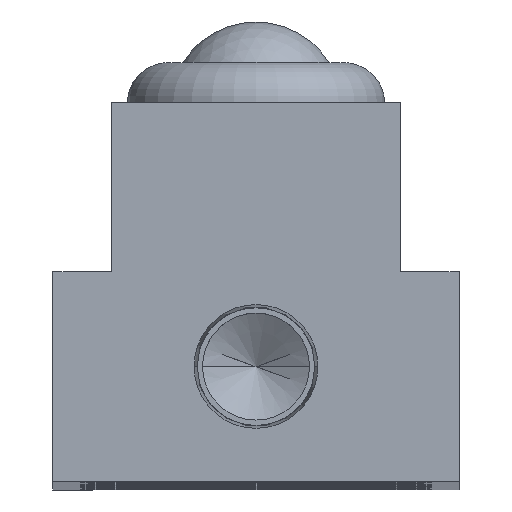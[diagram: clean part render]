
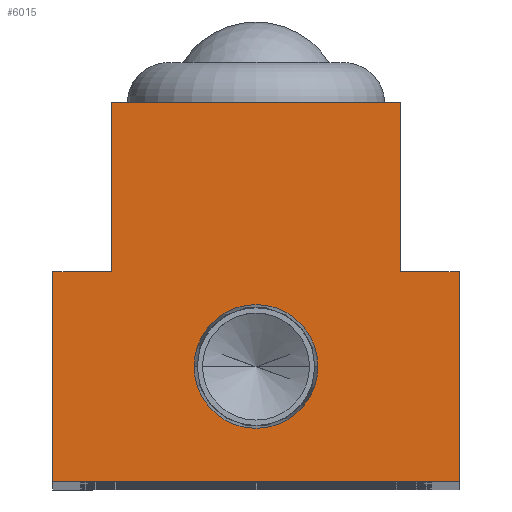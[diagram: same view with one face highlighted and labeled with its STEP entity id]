
A CAD part, top view. The second image highlights one B-rep face of the part: STEP entity #6015.
In plain terms, the highlighted planar face has unit normal (0, 0, 1).
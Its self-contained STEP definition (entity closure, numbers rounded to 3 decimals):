
#200 = DIRECTION ( 'NONE',  ( 0., 1., 0. ) ) ;
#207 = CIRCLE ( 'NONE', #464, 4.574 ) ;
#304 = EDGE_CURVE ( 'NONE', #964, #2742, #207, .T. ) ;
#333 = CARTESIAN_POINT ( 'NONE',  ( 15., 0., 0. ) ) ;
#354 = EDGE_CURVE ( 'NONE', #5958, #7961, #7630, .T. ) ;
#364 = AXIS2_PLACEMENT_3D ( 'NONE', #3194, #8505, #3964 ) ;
#417 = VECTOR ( 'NONE', #866, 1000. ) ;
#464 = AXIS2_PLACEMENT_3D ( 'NONE', #2908, #2779, #2751 ) ;
#556 = DIRECTION ( 'NONE',  ( 1., 0., 0. ) ) ;
#599 = ORIENTED_EDGE ( 'NONE', *, *, #4074, .T. ) ;
#685 = LINE ( 'NONE', #5534, #2736 ) ;
#866 = DIRECTION ( 'NONE',  ( -1., 0., 0. ) ) ;
#960 = LINE ( 'NONE', #4557, #6834 ) ;
#964 = VERTEX_POINT ( 'NONE', #5348 ) ;
#1166 = ORIENTED_EDGE ( 'NONE', *, *, #4947, .F. ) ;
#1321 = EDGE_LOOP ( 'NONE', ( #9659, #5306, #599, #6361, #1369, #8518, #8136, #5970 ) ) ;
#1369 = ORIENTED_EDGE ( 'NONE', *, *, #2390, .T. ) ;
#1728 = VECTOR ( 'NONE', #3970, 1000. ) ;
#2155 = CARTESIAN_POINT ( 'NONE',  ( 15., 0., 0. ) ) ;
#2390 = EDGE_CURVE ( 'NONE', #3512, #5958, #4006, .T. ) ;
#2707 = CARTESIAN_POINT ( 'NONE',  ( 10.7, 28., 0. ) ) ;
#2736 = VECTOR ( 'NONE', #9262, 1000. ) ;
#2742 = VERTEX_POINT ( 'NONE', #9669 ) ;
#2751 = DIRECTION ( 'NONE',  ( 1., 0., 0. ) ) ;
#2779 = DIRECTION ( 'NONE',  ( 0., 0., 1. ) ) ;
#2908 = CARTESIAN_POINT ( 'NONE',  ( 0., 8.5, 0. ) ) ;
#2973 = CIRCLE ( 'NONE', #364, 4.574 ) ;
#3194 = CARTESIAN_POINT ( 'NONE',  ( 0., 8.5, 0. ) ) ;
#3196 = CARTESIAN_POINT ( 'NONE',  ( -10.7, 28., 0. ) ) ;
#3329 = FACE_OUTER_BOUND ( 'NONE', #1321, .T. ) ;
#3367 = DIRECTION ( 'NONE',  ( 0., 0., 1. ) ) ;
#3512 = VERTEX_POINT ( 'NONE', #9081 ) ;
#3721 = CARTESIAN_POINT ( 'NONE',  ( 10.7, 15.5, 0. ) ) ;
#3964 = DIRECTION ( 'NONE',  ( 1., 0., 0. ) ) ;
#3970 = DIRECTION ( 'NONE',  ( 0., -1., 0. ) ) ;
#3985 = VERTEX_POINT ( 'NONE', #8264 ) ;
#4006 = LINE ( 'NONE', #8511, #1728 ) ;
#4032 = CARTESIAN_POINT ( 'NONE',  ( 10.7, 15.5, 0. ) ) ;
#4074 = EDGE_CURVE ( 'NONE', #8032, #9284, #960, .T. ) ;
#4311 = ORIENTED_EDGE ( 'NONE', *, *, #304, .F. ) ;
#4557 = CARTESIAN_POINT ( 'NONE',  ( -10.7, 28., 0. ) ) ;
#4947 = EDGE_CURVE ( 'NONE', #2742, #964, #2973, .T. ) ;
#4976 = EDGE_CURVE ( 'NONE', #9284, #3512, #685, .T. ) ;
#5248 = VECTOR ( 'NONE', #200, 1000. ) ;
#5290 = EDGE_CURVE ( 'NONE', #5816, #7282, #7973, .T. ) ;
#5306 = ORIENTED_EDGE ( 'NONE', *, *, #5919, .T. ) ;
#5348 = CARTESIAN_POINT ( 'NONE',  ( 4.574, 8.5, 0. ) ) ;
#5489 = CARTESIAN_POINT ( 'NONE',  ( -10.7, 15.5, 0. ) ) ;
#5534 = CARTESIAN_POINT ( 'NONE',  ( -10.7, 15.5, 0. ) ) ;
#5632 = VECTOR ( 'NONE', #556, 1000. ) ;
#5638 = CARTESIAN_POINT ( 'NONE',  ( 0., 0., 0. ) ) ;
#5816 = VERTEX_POINT ( 'NONE', #9840 ) ;
#5919 = EDGE_CURVE ( 'NONE', #3985, #8032, #6545, .T. ) ;
#5958 = VERTEX_POINT ( 'NONE', #9306 ) ;
#5970 = ORIENTED_EDGE ( 'NONE', *, *, #5290, .T. ) ;
#6015 = ADVANCED_FACE ( 'NONE', ( #9384, #3329 ), #6360, .T. ) ;
#6092 = DIRECTION ( 'NONE',  ( 0., -1., 0. ) ) ;
#6360 = PLANE ( 'NONE',  #7614 ) ;
#6361 = ORIENTED_EDGE ( 'NONE', *, *, #4976, .T. ) ;
#6545 = LINE ( 'NONE', #3196, #417 ) ;
#6834 = VECTOR ( 'NONE', #6092, 1000. ) ;
#7278 = DIRECTION ( 'NONE',  ( 0., 1., 0. ) ) ;
#7280 = EDGE_LOOP ( 'NONE', ( #4311, #1166 ) ) ;
#7282 = VERTEX_POINT ( 'NONE', #4032 ) ;
#7433 = EDGE_CURVE ( 'NONE', #7282, #3985, #9826, .T. ) ;
#7614 = AXIS2_PLACEMENT_3D ( 'NONE', #5638, #3367, #8675 ) ;
#7630 = LINE ( 'NONE', #2155, #5632 ) ;
#7734 = LINE ( 'NONE', #9327, #5248 ) ;
#7818 = VECTOR ( 'NONE', #7278, 1000. ) ;
#7961 = VERTEX_POINT ( 'NONE', #333 ) ;
#7973 = LINE ( 'NONE', #3721, #9748 ) ;
#8032 = VERTEX_POINT ( 'NONE', #9615 ) ;
#8136 = ORIENTED_EDGE ( 'NONE', *, *, #8219, .T. ) ;
#8219 = EDGE_CURVE ( 'NONE', #7961, #5816, #7734, .T. ) ;
#8259 = DIRECTION ( 'NONE',  ( -1., 0., 0. ) ) ;
#8264 = CARTESIAN_POINT ( 'NONE',  ( 10.7, 28., 0. ) ) ;
#8505 = DIRECTION ( 'NONE',  ( 0., 0., 1. ) ) ;
#8511 = CARTESIAN_POINT ( 'NONE',  ( -15., 0., 0. ) ) ;
#8518 = ORIENTED_EDGE ( 'NONE', *, *, #354, .T. ) ;
#8675 = DIRECTION ( 'NONE',  ( 1., 0., 0. ) ) ;
#9081 = CARTESIAN_POINT ( 'NONE',  ( -15., 15.5, 0. ) ) ;
#9262 = DIRECTION ( 'NONE',  ( -1., 0., 0. ) ) ;
#9284 = VERTEX_POINT ( 'NONE', #5489 ) ;
#9306 = CARTESIAN_POINT ( 'NONE',  ( -15., 0., 0. ) ) ;
#9327 = CARTESIAN_POINT ( 'NONE',  ( 15., 0., 0. ) ) ;
#9384 = FACE_BOUND ( 'NONE', #7280, .T. ) ;
#9615 = CARTESIAN_POINT ( 'NONE',  ( -10.7, 28., 0. ) ) ;
#9659 = ORIENTED_EDGE ( 'NONE', *, *, #7433, .T. ) ;
#9669 = CARTESIAN_POINT ( 'NONE',  ( -4.574, 8.5, 0. ) ) ;
#9748 = VECTOR ( 'NONE', #8259, 1000. ) ;
#9826 = LINE ( 'NONE', #2707, #7818 ) ;
#9840 = CARTESIAN_POINT ( 'NONE',  ( 15., 15.5, 0. ) ) ;
